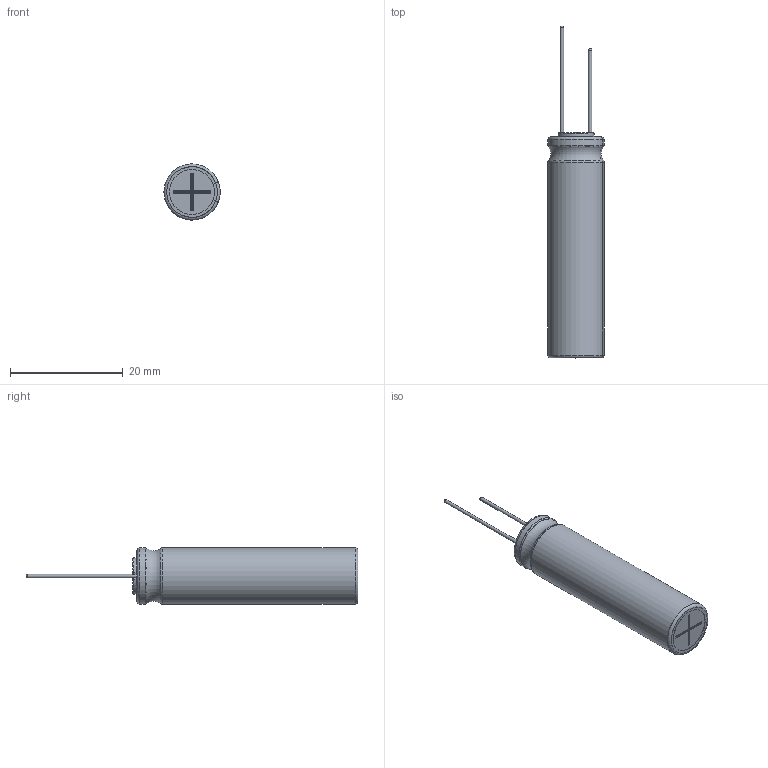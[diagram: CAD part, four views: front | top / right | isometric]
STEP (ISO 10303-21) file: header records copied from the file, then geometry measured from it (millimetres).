
FILE_DESCRIPTION(/* description */ (''),/* implementation_level */ '2;1');
FILE_NAME(/* name */ '10x40_Lead.stp',/* time_stamp */ '2017-09-05T14:15:46+09:00',/* author */ (''),/* organization */ (''),/* preprocessor_version */ 'ST-DEVELOPER v16',/* originating_system */ 'SIEMENS PLM Software NX 11.0',/* authorisation */ '');
FILE_SCHEMA (('AUTOMOTIVE_DESIGN { 1 0 10303 214 3 1 1 1 }'));
Length unit declared in the file: millimetre
Products named in the file (1): 10x40_Lead_0
Bounding box: 9.99 x 59 x 10 mm (x, y, z)
Volume: 3080.6 mm3; surface area: 3974.7 mm2
Topology: 3 solids, 3 shells, 115 faces, 288 edges, 181 vertices
Faces by surface type: cylinder 44, torus 33, plane 28, sphere 6, bspline 4
Full cylindrical faces by diameter (mm): 0.6 x2, 9.8 x2
Entity records: 4020 total; most frequent: CARTESIAN_POINT 680, DIRECTION 664, ORIENTED_EDGE 544, AXIS2_PLACEMENT_3D 280, EDGE_CURVE 272, VERTEX_POINT 176, CIRCLE 160, EDGE_LOOP 128
